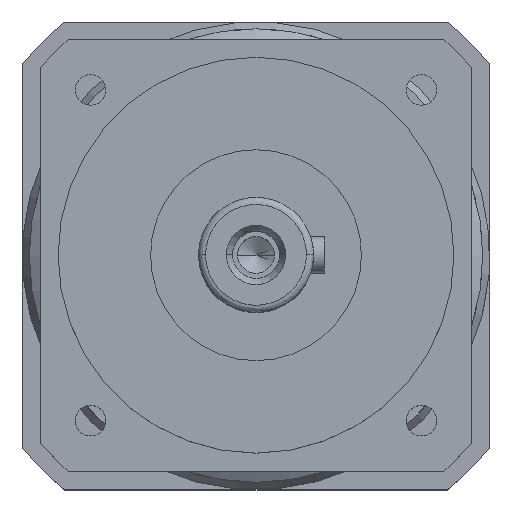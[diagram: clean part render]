
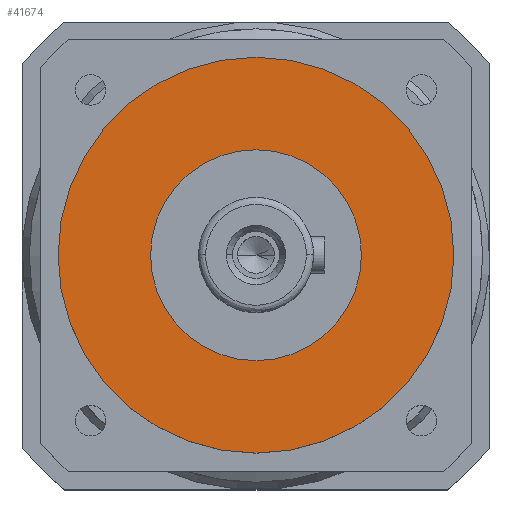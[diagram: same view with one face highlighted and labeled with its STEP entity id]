
A CAD part, top view. The second image highlights one B-rep face of the part: STEP entity #41674.
In plain terms, the highlighted planar face has unit normal (0, 0, 1).
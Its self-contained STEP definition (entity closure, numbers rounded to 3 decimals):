
#533 = CARTESIAN_POINT ( 'NONE',  ( 0., 0., 0. ) ) ;
#841 = EDGE_CURVE ( 'NONE', #35181, #982, #4185, .T. ) ;
#982 = VERTEX_POINT ( 'NONE', #37835 ) ;
#2651 = DIRECTION ( 'NONE',  ( 1., 0., 0. ) ) ;
#3258 = DIRECTION ( 'NONE',  ( 0., 0., -1. ) ) ;
#3805 = DIRECTION ( 'NONE',  ( -1., 0., 0. ) ) ;
#4185 = CIRCLE ( 'NONE', #4804, 29.3 ) ;
#4804 = AXIS2_PLACEMENT_3D ( 'NONE', #32270, #32409, #32550 ) ;
#5038 = ORIENTED_EDGE ( 'NONE', *, *, #30191, .F. ) ;
#6194 = PLANE ( 'NONE',  #17505 ) ;
#6435 = VERTEX_POINT ( 'NONE', #35335 ) ;
#7611 = CIRCLE ( 'NONE', #39717, 55. ) ;
#9324 = CARTESIAN_POINT ( 'NONE',  ( 0., 0., 0. ) ) ;
#9456 = DIRECTION ( 'NONE',  ( -1., 0., 0. ) ) ;
#11396 = AXIS2_PLACEMENT_3D ( 'NONE', #533, #23241, #3805 ) ;
#11972 = FACE_OUTER_BOUND ( 'NONE', #42242, .T. ) ;
#13271 = ORIENTED_EDGE ( 'NONE', *, *, #841, .F. ) ;
#17486 = EDGE_CURVE ( 'NONE', #18737, #6435, #7611, .T. ) ;
#17505 = AXIS2_PLACEMENT_3D ( 'NONE', #9324, #28926, #9456 ) ;
#18737 = VERTEX_POINT ( 'NONE', #33089 ) ;
#22082 = DIRECTION ( 'NONE',  ( 0., 0., -1. ) ) ;
#22686 = CARTESIAN_POINT ( 'NONE',  ( 0., 0., 0. ) ) ;
#23241 = DIRECTION ( 'NONE',  ( 0., 0., 1. ) ) ;
#25965 = DIRECTION ( 'NONE',  ( 1., 0., 0. ) ) ;
#28599 = AXIS2_PLACEMENT_3D ( 'NONE', #41634, #22082, #2651 ) ;
#28926 = DIRECTION ( 'NONE',  ( 0., 0., -1. ) ) ;
#28972 = CIRCLE ( 'NONE', #28599, 55. ) ;
#30191 = EDGE_CURVE ( 'NONE', #982, #35181, #33449, .T. ) ;
#30591 = ORIENTED_EDGE ( 'NONE', *, *, #37792, .F. ) ;
#30844 = CARTESIAN_POINT ( 'NONE',  ( 29.3, 0., 0. ) ) ;
#32270 = CARTESIAN_POINT ( 'NONE',  ( 0., 0., 0. ) ) ;
#32409 = DIRECTION ( 'NONE',  ( 0., 0., 1. ) ) ;
#32550 = DIRECTION ( 'NONE',  ( -1., 0., 0. ) ) ;
#33089 = CARTESIAN_POINT ( 'NONE',  ( -55., 0., 0. ) ) ;
#33449 = CIRCLE ( 'NONE', #11396, 29.3 ) ;
#35181 = VERTEX_POINT ( 'NONE', #30844 ) ;
#35335 = CARTESIAN_POINT ( 'NONE',  ( 55., 0., 0. ) ) ;
#35782 = ORIENTED_EDGE ( 'NONE', *, *, #17486, .F. ) ;
#37792 = EDGE_CURVE ( 'NONE', #6435, #18737, #28972, .T. ) ;
#37835 = CARTESIAN_POINT ( 'NONE',  ( -29.3, 0., 0. ) ) ;
#37983 = FACE_BOUND ( 'NONE', #40388, .T. ) ;
#39717 = AXIS2_PLACEMENT_3D ( 'NONE', #22686, #3258, #25965 ) ;
#40388 = EDGE_LOOP ( 'NONE', ( #5038, #13271 ) ) ;
#41634 = CARTESIAN_POINT ( 'NONE',  ( 0., 0., 0. ) ) ;
#41674 = ADVANCED_FACE ( 'NONE', ( #37983, #11972 ), #6194, .F. ) ;
#42242 = EDGE_LOOP ( 'NONE', ( #30591, #35782 ) ) ;
